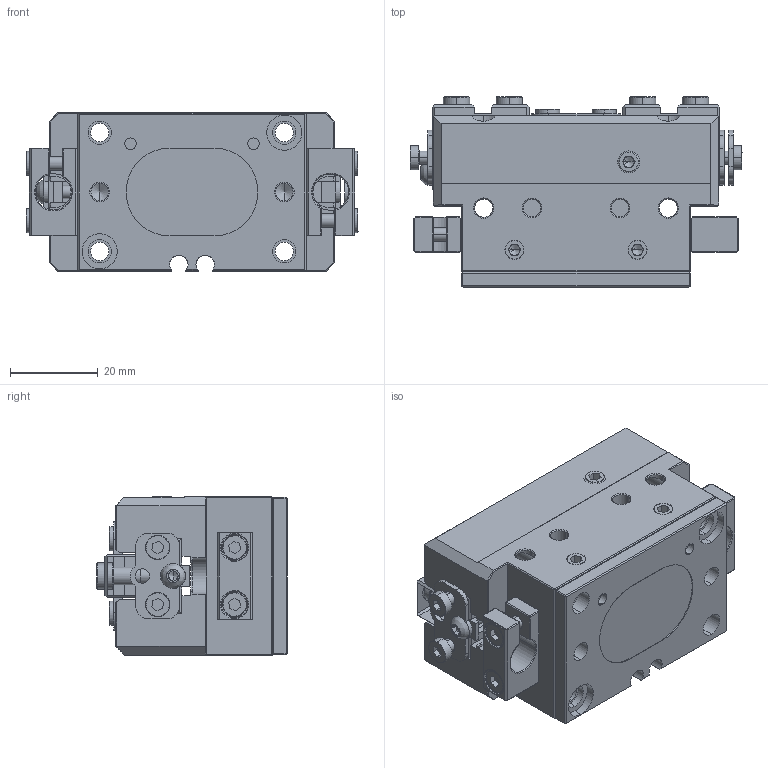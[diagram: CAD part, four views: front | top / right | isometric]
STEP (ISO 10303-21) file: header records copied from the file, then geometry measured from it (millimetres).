
FILE_DESCRIPTION (( 'STEP AP203' ), '1' );
FILE_NAME ('EZ6.STEP', '2026-09-23T06:54:21', ( '' ), ( '' ), 'SwSTEP 2.0', 'SolidWorks 2026', '' );
FILE_SCHEMA (( 'CONFIG_CONTROL_DESIGN' ));
Products named in the file (1): EZ6
Bounding box: 75.52 x 43.4 x 36 mm (x, y, z)
Surface area: 37297.5 mm2 (no closed solid volume)
Topology: 0 solids, 37 shells, 1399 faces, 3579 edges, 2261 vertices
Faces by surface type: plane 713, cylinder 366, cone 165, bspline 155
Entity records: 47118 total; most frequent: CARTESIAN_POINT 13985, ORIENTED_EDGE 7006, DIRECTION 6555, EDGE_CURVE 3523, VERTEX_POINT 2261, VECTOR 2219, LINE 2219, AXIS2_PLACEMENT_3D 2168
